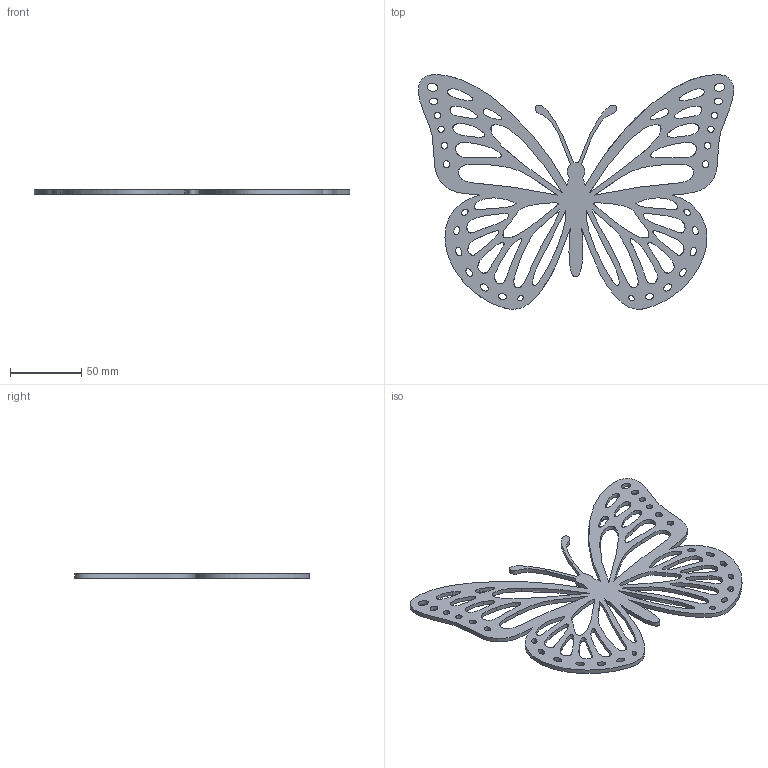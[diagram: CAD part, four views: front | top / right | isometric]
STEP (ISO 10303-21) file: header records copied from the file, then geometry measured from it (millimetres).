
FILE_DESCRIPTION(('STEP AP214'),'1');
FILE_NAME('2.stp','2026-06-27T09:31:15',(' '),(' '),'Spatial InterOp 3D',' ',' ');
FILE_SCHEMA(('AUTOMOTIVE_DESIGN { 1 0 10303 214 1 1 1 1 }'));
Length unit declared in the file: metre
Products named in the file (1): 1782562483
Bounding box: 220.73 x 164.28 x 3 mm (x, y, z)
Volume: 43307.5 mm3; surface area: 41202.6 mm2
Topology: 1 solids, 1 shells, 100 faces, 294 edges, 196 vertices
Faces by surface type: extrusion 96, plane 2, cylinder 2
Entity records: 6845 total; most frequent: CARTESIAN_POINT 3700, ORIENTED_EDGE 536, EDGE_CURVE 268, EDGE_LOOP 238, B_SPLINE_CURVE_WITH_KNOTS 201, VERTEX_POINT 196, DIRECTION 186, VECTOR 168
